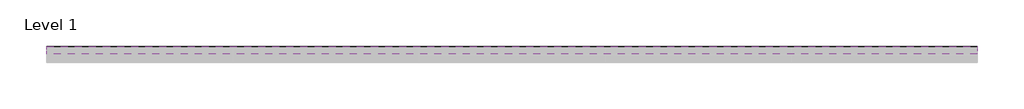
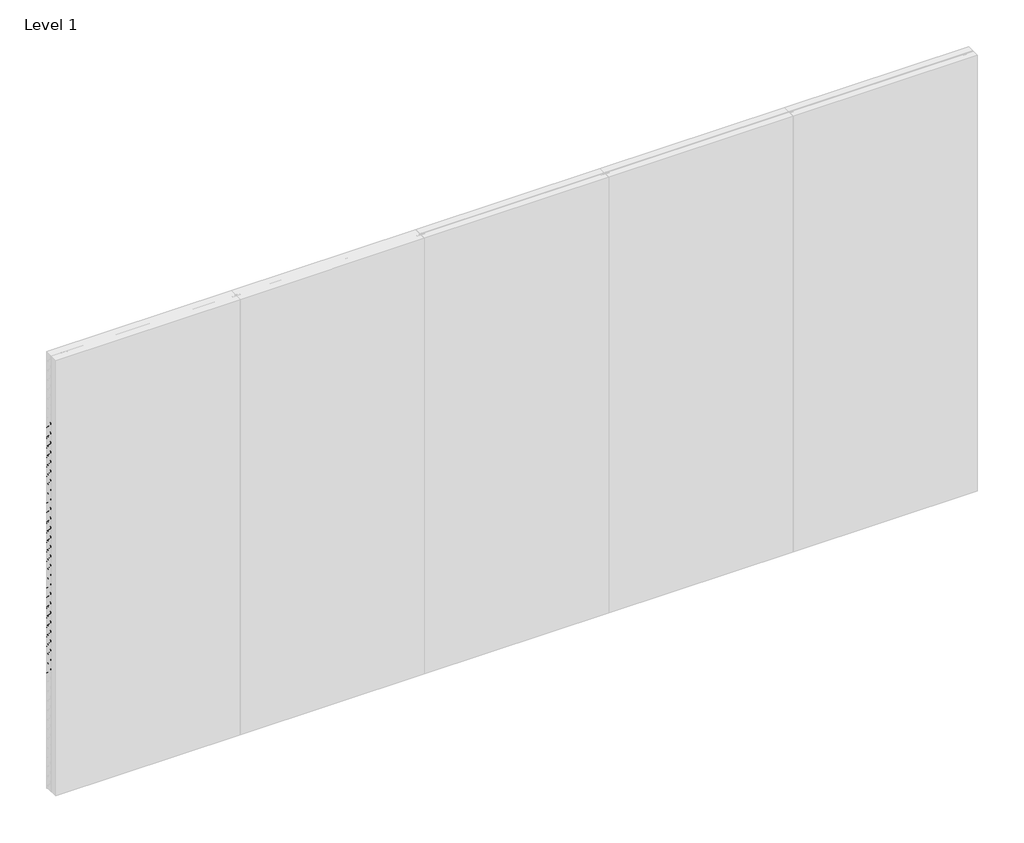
# One storey, part 5 of 7: 27 proxies.
"""IFC4 building model written with IfcOpenShell, lengths in millimetres."""

from ifc_helpers import new_model, si_unit, point, frame, frame_2d, origin, place, context, project, spatial, polyline, circle_curve, trimmed, segment, composite_curve, outline, extrude, element, save

model = new_model("IFC4")

# Units and contexts
model_context = context("Model", 3, world=origin())
ifc_project = project(units=[si_unit("LENGTHUNIT", "METRE", prefix="MILLI")], contexts=[model_context])

# Site, building, storey
site = spatial("IfcSite", under=ifc_project)
building = spatial("IfcBuilding", under=site)
storey = spatial("IfcBuildingStorey", under=building, Name="Level 1", Elevation=0.0)

# Proxies
placement = place(None, origin())
element("IfcBuildingElementProxy", 1, Name="Wall Sweeps", at=placement, inside=storey, context=model_context, shape_type="SweptSolid", body=[
    extrude(outline(composite_curve([segment(polyline([(-1992.5, 2521.0025181), (-1992.5, 2528.9509429), (-1994.5, 2528.9509429), (-1994.5, 2526.5421319), (-1996.0, 2526.5421319), (-1996.0, 2533.6499999), (-1994.5, 2533.6499999), (-1994.5, 2530.4509429), (-1992.5, 2530.4509429), (-1992.5, 2533.7999999), (-1992.1784609, 2535.0), (-1987.7000054, 2535.0), (-1987.7000054, 2531.8499997), (-1989.0835735, 2533.4999997), (-1991.0, 2533.4999997), (-1991.0, 2521.6085574), (-1946.0, 2475.0096933), (-1946.0, 2459.0), (-1947.5, 2461.6798), (-1947.5, 2464.1208496), (-1948.5, 2464.1208496), (-1948.5, 2465.6208496), (-1947.5, 2465.6208496), (-1947.5, 2474.4036539), (-1961.2088107, 2488.599543), (-1963.4375599, 2486.3707939), (-1962.8739549, 2485.8071888)]), True, "CONTINUOUS"), segment(trimmed(circle_curve(frame_2d((-1963.2275083, 2485.4536354)), 0.5), [point((-1962.8739549, 2485.8071888))], [point((-1963.3569178, 2484.9706725))], False, "CARTESIAN"), True, "CONTINUOUS"), segment(polyline([(-1963.3569178, 2484.9706725), (-1966.1977917, 2485.7318824), (-1962.250957, 2489.6787171), (-1992.5, 2521.0025181)]), True, "CONTINUOUS")], self_intersect=False)), frame((0.0, 0.0, 0.0), z_axis=(1.0, 0.0, 0.0), x_axis=(0.0, 1.0, 0.0)), (0.0, 0.0, 1.0), 6000.0),
])
element("IfcBuildingElementProxy", 2, Name="Wall Sweeps", at=placement, inside=storey, context=model_context, shape_type="SweptSolid", body=[
    extrude(outline(composite_curve([segment(polyline([(-1992.5, 2456.0025181), (-1992.5, 2463.9509429), (-1994.5, 2463.9509429), (-1994.5, 2461.5421319), (-1996.0, 2461.5421319), (-1996.0, 2468.6499999), (-1994.5, 2468.6499999), (-1994.5, 2465.4509429), (-1992.5, 2465.4509429), (-1992.5, 2468.7999999), (-1992.1784609, 2470.0), (-1987.7000054, 2470.0), (-1987.7000054, 2466.8499997), (-1989.0835735, 2468.4999997), (-1991.0, 2468.4999997), (-1991.0, 2456.6085574), (-1946.0, 2410.0096933), (-1946.0, 2394.0), (-1947.5, 2396.6798), (-1947.5, 2399.1208496), (-1948.5, 2399.1208496), (-1948.5, 2400.6208496), (-1947.5, 2400.6208496), (-1947.5, 2409.4036539), (-1961.2088107, 2423.599543), (-1963.4375599, 2421.3707939), (-1962.8739549, 2420.8071888)]), True, "CONTINUOUS"), segment(trimmed(circle_curve(frame_2d((-1963.2275083, 2420.4536354)), 0.5), [point((-1962.8739549, 2420.8071888))], [point((-1963.3569178, 2419.9706725))], False, "CARTESIAN"), True, "CONTINUOUS"), segment(polyline([(-1963.3569178, 2419.9706725), (-1966.1977917, 2420.7318824), (-1962.250957, 2424.6787171), (-1992.5, 2456.0025181)]), True, "CONTINUOUS")], self_intersect=False)), frame((0.0, 0.0, 0.0), z_axis=(1.0, 0.0, 0.0), x_axis=(0.0, 1.0, 0.0)), (0.0, 0.0, 1.0), 6000.0),
])
element("IfcBuildingElementProxy", 3, Name="Wall Sweeps", at=placement, inside=storey, context=model_context, shape_type="SweptSolid", body=[
    extrude(outline(composite_curve([segment(polyline([(-1992.5, 2391.0025181), (-1992.5, 2398.9509429), (-1994.5, 2398.9509429), (-1994.5, 2396.5421319), (-1996.0, 2396.5421319), (-1996.0, 2403.6499999), (-1994.5, 2403.6499999), (-1994.5, 2400.4509429), (-1992.5, 2400.4509429), (-1992.5, 2403.7999999), (-1992.1784609, 2405.0), (-1987.7000054, 2405.0), (-1987.7000054, 2401.8499997), (-1989.0835735, 2403.4999997), (-1991.0, 2403.4999997), (-1991.0, 2391.6085574), (-1946.0, 2345.0096933), (-1946.0, 2329.0), (-1947.5, 2331.6798), (-1947.5, 2334.1208496), (-1948.5, 2334.1208496), (-1948.5, 2335.6208496), (-1947.5, 2335.6208496), (-1947.5, 2344.4036539), (-1961.2088107, 2358.599543), (-1963.4375599, 2356.3707939), (-1962.8739549, 2355.8071888)]), True, "CONTINUOUS"), segment(trimmed(circle_curve(frame_2d((-1963.2275083, 2355.4536354)), 0.5), [point((-1962.8739549, 2355.8071888))], [point((-1963.3569178, 2354.9706725))], False, "CARTESIAN"), True, "CONTINUOUS"), segment(polyline([(-1963.3569178, 2354.9706725), (-1966.1977917, 2355.7318824), (-1962.250957, 2359.6787171), (-1992.5, 2391.0025181)]), True, "CONTINUOUS")], self_intersect=False)), frame((0.0, 0.0, 0.0), z_axis=(1.0, 0.0, 0.0), x_axis=(0.0, 1.0, 0.0)), (0.0, 0.0, 1.0), 6000.0),
])
element("IfcBuildingElementProxy", 4, Name="Wall Sweeps", at=placement, inside=storey, context=model_context, shape_type="SweptSolid", body=[
    extrude(outline(composite_curve([segment(polyline([(-1992.5, 2326.0025181), (-1992.5, 2333.9509429), (-1994.5, 2333.9509429), (-1994.5, 2331.5421319), (-1996.0, 2331.5421319), (-1996.0, 2338.6499999), (-1994.5, 2338.6499999), (-1994.5, 2335.4509429), (-1992.5, 2335.4509429), (-1992.5, 2338.7999999), (-1992.1784609, 2340.0), (-1987.7000054, 2340.0), (-1987.7000054, 2336.8499997), (-1989.0835735, 2338.4999997), (-1991.0, 2338.4999997), (-1991.0, 2326.6085574), (-1946.0, 2280.0096933), (-1946.0, 2264.0), (-1947.5, 2266.6798), (-1947.5, 2269.1208496), (-1948.5, 2269.1208496), (-1948.5, 2270.6208496), (-1947.5, 2270.6208496), (-1947.5, 2279.4036539), (-1961.2088107, 2293.599543), (-1963.4375599, 2291.3707939), (-1962.8739549, 2290.8071888)]), True, "CONTINUOUS"), segment(trimmed(circle_curve(frame_2d((-1963.2275083, 2290.4536354)), 0.5), [point((-1962.8739549, 2290.8071888))], [point((-1963.3569178, 2289.9706725))], False, "CARTESIAN"), True, "CONTINUOUS"), segment(polyline([(-1963.3569178, 2289.9706725), (-1966.1977917, 2290.7318824), (-1962.250957, 2294.6787171), (-1992.5, 2326.0025181)]), True, "CONTINUOUS")], self_intersect=False)), frame((0.0, 0.0, 0.0), z_axis=(1.0, 0.0, 0.0), x_axis=(0.0, 1.0, 0.0)), (0.0, 0.0, 1.0), 6000.0),
])
element("IfcBuildingElementProxy", 5, Name="Wall Sweeps", at=placement, inside=storey, context=model_context, shape_type="SweptSolid", body=[
    extrude(outline(composite_curve([segment(polyline([(-1992.5, 2261.0025181), (-1992.5, 2268.9509429), (-1994.5, 2268.9509429), (-1994.5, 2266.5421319), (-1996.0, 2266.5421319), (-1996.0, 2273.6499999), (-1994.5, 2273.6499999), (-1994.5, 2270.4509429), (-1992.5, 2270.4509429), (-1992.5, 2273.7999999), (-1992.1784609, 2275.0), (-1987.7000054, 2275.0), (-1987.7000054, 2271.8499997), (-1989.0835735, 2273.4999997), (-1991.0, 2273.4999997), (-1991.0, 2261.6085574), (-1946.0, 2215.0096933), (-1946.0, 2199.0), (-1947.5, 2201.6798), (-1947.5, 2204.1208496), (-1948.5, 2204.1208496), (-1948.5, 2205.6208496), (-1947.5, 2205.6208496), (-1947.5, 2214.4036539), (-1961.2088107, 2228.599543), (-1963.4375599, 2226.3707939), (-1962.8739549, 2225.8071888)]), True, "CONTINUOUS"), segment(trimmed(circle_curve(frame_2d((-1963.2275083, 2225.4536354)), 0.5), [point((-1962.8739549, 2225.8071888))], [point((-1963.3569178, 2224.9706725))], False, "CARTESIAN"), True, "CONTINUOUS"), segment(polyline([(-1963.3569178, 2224.9706725), (-1966.1977917, 2225.7318824), (-1962.250957, 2229.6787171), (-1992.5, 2261.0025181)]), True, "CONTINUOUS")], self_intersect=False)), frame((0.0, 0.0, 0.0), z_axis=(1.0, 0.0, 0.0), x_axis=(0.0, 1.0, 0.0)), (0.0, 0.0, 1.0), 6000.0),
])
element("IfcBuildingElementProxy", 6, Name="Wall Sweeps", at=placement, inside=storey, context=model_context, shape_type="SweptSolid", body=[
    extrude(outline(composite_curve([segment(polyline([(-1992.5, 2196.0025181), (-1992.5, 2203.9509429), (-1994.5, 2203.9509429), (-1994.5, 2201.5421319), (-1996.0, 2201.5421319), (-1996.0, 2208.6499999), (-1994.5, 2208.6499999), (-1994.5, 2205.4509429), (-1992.5, 2205.4509429), (-1992.5, 2208.7999999), (-1992.1784609, 2210.0), (-1987.7000054, 2210.0), (-1987.7000054, 2206.8499997), (-1989.0835735, 2208.4999997), (-1991.0, 2208.4999997), (-1991.0, 2196.6085574), (-1946.0, 2150.0096933), (-1946.0, 2134.0), (-1947.5, 2136.6798), (-1947.5, 2139.1208496), (-1948.5, 2139.1208496), (-1948.5, 2140.6208496), (-1947.5, 2140.6208496), (-1947.5, 2149.4036539), (-1961.2088107, 2163.599543), (-1963.4375599, 2161.3707939), (-1962.8739549, 2160.8071888)]), True, "CONTINUOUS"), segment(trimmed(circle_curve(frame_2d((-1963.2275083, 2160.4536354)), 0.5), [point((-1962.8739549, 2160.8071888))], [point((-1963.3569178, 2159.9706725))], False, "CARTESIAN"), True, "CONTINUOUS"), segment(polyline([(-1963.3569178, 2159.9706725), (-1966.1977917, 2160.7318824), (-1962.250957, 2164.6787171), (-1992.5, 2196.0025181)]), True, "CONTINUOUS")], self_intersect=False)), frame((0.0, 0.0, 0.0), z_axis=(1.0, 0.0, 0.0), x_axis=(0.0, 1.0, 0.0)), (0.0, 0.0, 1.0), 6000.0),
])
element("IfcBuildingElementProxy", 7, Name="Wall Sweeps", at=placement, inside=storey, context=model_context, shape_type="SweptSolid", body=[
    extrude(outline(composite_curve([segment(polyline([(-1992.5, 2131.0025181), (-1992.5, 2138.9509429), (-1994.5, 2138.9509429), (-1994.5, 2136.5421319), (-1996.0, 2136.5421319), (-1996.0, 2143.6499999), (-1994.5, 2143.6499999), (-1994.5, 2140.4509429), (-1992.5, 2140.4509429), (-1992.5, 2143.7999999), (-1992.1784609, 2145.0), (-1987.7000054, 2145.0), (-1987.7000054, 2141.8499997), (-1989.0835735, 2143.4999997), (-1991.0, 2143.4999997), (-1991.0, 2131.6085574), (-1946.0, 2085.0096933), (-1946.0, 2069.0), (-1947.5, 2071.6798), (-1947.5, 2074.1208496), (-1948.5, 2074.1208496), (-1948.5, 2075.6208496), (-1947.5, 2075.6208496), (-1947.5, 2084.4036539), (-1961.2088107, 2098.599543), (-1963.4375599, 2096.3707939), (-1962.8739549, 2095.8071888)]), True, "CONTINUOUS"), segment(trimmed(circle_curve(frame_2d((-1963.2275083, 2095.4536354)), 0.5), [point((-1962.8739549, 2095.8071888))], [point((-1963.3569178, 2094.9706725))], False, "CARTESIAN"), True, "CONTINUOUS"), segment(polyline([(-1963.3569178, 2094.9706725), (-1966.1977917, 2095.7318824), (-1962.250957, 2099.6787171), (-1992.5, 2131.0025181)]), True, "CONTINUOUS")], self_intersect=False)), frame((0.0, 0.0, 0.0), z_axis=(1.0, 0.0, 0.0), x_axis=(0.0, 1.0, 0.0)), (0.0, 0.0, 1.0), 6000.0),
])
element("IfcBuildingElementProxy", 8, Name="Wall Sweeps", at=placement, inside=storey, context=model_context, shape_type="SweptSolid", body=[
    extrude(outline(composite_curve([segment(polyline([(-1992.5, 2066.0025181), (-1992.5, 2073.9509429), (-1994.5, 2073.9509429), (-1994.5, 2071.5421319), (-1996.0, 2071.5421319), (-1996.0, 2078.6499999), (-1994.5, 2078.6499999), (-1994.5, 2075.4509429), (-1992.5, 2075.4509429), (-1992.5, 2078.7999999), (-1992.1784609, 2080.0), (-1987.7000054, 2080.0), (-1987.7000054, 2076.8499997), (-1989.0835735, 2078.4999997), (-1991.0, 2078.4999997), (-1991.0, 2066.6085574), (-1946.0, 2020.0096933), (-1946.0, 2004.0), (-1947.5, 2006.6798), (-1947.5, 2009.1208496), (-1948.5, 2009.1208496), (-1948.5, 2010.6208496), (-1947.5, 2010.6208496), (-1947.5, 2019.4036539), (-1961.2088107, 2033.599543), (-1963.4375599, 2031.3707939), (-1962.8739549, 2030.8071888)]), True, "CONTINUOUS"), segment(trimmed(circle_curve(frame_2d((-1963.2275083, 2030.4536354)), 0.5), [point((-1962.8739549, 2030.8071888))], [point((-1963.3569178, 2029.9706725))], False, "CARTESIAN"), True, "CONTINUOUS"), segment(polyline([(-1963.3569178, 2029.9706725), (-1966.1977917, 2030.7318824), (-1962.250957, 2034.6787171), (-1992.5, 2066.0025181)]), True, "CONTINUOUS")], self_intersect=False)), frame((0.0, 0.0, 0.0), z_axis=(1.0, 0.0, 0.0), x_axis=(0.0, 1.0, 0.0)), (0.0, 0.0, 1.0), 6000.0),
])
element("IfcBuildingElementProxy", 9, Name="Wall Sweeps", at=placement, inside=storey, context=model_context, shape_type="SweptSolid", body=[
    extrude(outline(composite_curve([segment(polyline([(-1992.5, 2001.0025181), (-1992.5, 2008.9509429), (-1994.5, 2008.9509429), (-1994.5, 2006.5421319), (-1996.0, 2006.5421319), (-1996.0, 2013.6499999), (-1994.5, 2013.6499999), (-1994.5, 2010.4509429), (-1992.5, 2010.4509429), (-1992.5, 2013.7999999), (-1992.1784609, 2015.0), (-1987.7000054, 2015.0), (-1987.7000054, 2011.8499997), (-1989.0835735, 2013.4999997), (-1991.0, 2013.4999997), (-1991.0, 2001.6085574), (-1946.0, 1955.0096933), (-1946.0, 1939.0), (-1947.5, 1941.6798), (-1947.5, 1944.1208496), (-1948.5, 1944.1208496), (-1948.5, 1945.6208496), (-1947.5, 1945.6208496), (-1947.5, 1954.4036539), (-1961.2088107, 1968.599543), (-1963.4375599, 1966.3707939), (-1962.8739549, 1965.8071888)]), True, "CONTINUOUS"), segment(trimmed(circle_curve(frame_2d((-1963.2275083, 1965.4536354)), 0.5), [point((-1962.8739549, 1965.8071888))], [point((-1963.3569178, 1964.9706725))], False, "CARTESIAN"), True, "CONTINUOUS"), segment(polyline([(-1963.3569178, 1964.9706725), (-1966.1977917, 1965.7318824), (-1962.250957, 1969.6787171), (-1992.5, 2001.0025181)]), True, "CONTINUOUS")], self_intersect=False)), frame((0.0, 0.0, 0.0), z_axis=(1.0, 0.0, 0.0), x_axis=(0.0, 1.0, 0.0)), (0.0, 0.0, 1.0), 6000.0),
])
element("IfcBuildingElementProxy", 10, Name="Wall Sweeps", at=placement, inside=storey, context=model_context, shape_type="SweptSolid", body=[
    extrude(outline(composite_curve([segment(polyline([(-1992.5, 1936.0025181), (-1992.5, 1943.9509429), (-1994.5, 1943.9509429), (-1994.5, 1941.5421319), (-1996.0, 1941.5421319), (-1996.0, 1948.6499999), (-1994.5, 1948.6499999), (-1994.5, 1945.4509429), (-1992.5, 1945.4509429), (-1992.5, 1948.7999999), (-1992.1784609, 1950.0), (-1987.7000054, 1950.0), (-1987.7000054, 1946.8499997), (-1989.0835735, 1948.4999997), (-1991.0, 1948.4999997), (-1991.0, 1936.6085574), (-1946.0, 1890.0096933), (-1946.0, 1874.0), (-1947.5, 1876.6798), (-1947.5, 1879.1208496), (-1948.5, 1879.1208496), (-1948.5, 1880.6208496), (-1947.5, 1880.6208496), (-1947.5, 1889.4036539), (-1961.2088107, 1903.599543), (-1963.4375599, 1901.3707939), (-1962.8739549, 1900.8071888)]), True, "CONTINUOUS"), segment(trimmed(circle_curve(frame_2d((-1963.2275083, 1900.4536354)), 0.5), [point((-1962.8739549, 1900.8071888))], [point((-1963.3569178, 1899.9706725))], False, "CARTESIAN"), True, "CONTINUOUS"), segment(polyline([(-1963.3569178, 1899.9706725), (-1966.1977917, 1900.7318824), (-1962.250957, 1904.6787171), (-1992.5, 1936.0025181)]), True, "CONTINUOUS")], self_intersect=False)), frame((0.0, 0.0, 0.0), z_axis=(1.0, 0.0, 0.0), x_axis=(0.0, 1.0, 0.0)), (0.0, 0.0, 1.0), 6000.0),
])
element("IfcBuildingElementProxy", 11, Name="Wall Sweeps", at=placement, inside=storey, context=model_context, shape_type="SweptSolid", body=[
    extrude(outline(composite_curve([segment(polyline([(-1992.5, 1871.0025181), (-1992.5, 1878.9509429), (-1994.5, 1878.9509429), (-1994.5, 1876.5421319), (-1996.0, 1876.5421319), (-1996.0, 1883.6499999), (-1994.5, 1883.6499999), (-1994.5, 1880.4509429), (-1992.5, 1880.4509429), (-1992.5, 1883.7999999), (-1992.1784609, 1885.0), (-1987.7000054, 1885.0), (-1987.7000054, 1881.8499997), (-1989.0835735, 1883.4999997), (-1991.0, 1883.4999997), (-1991.0, 1871.6085574), (-1946.0, 1825.0096933), (-1946.0, 1809.0), (-1947.5, 1811.6798), (-1947.5, 1814.1208496), (-1948.5, 1814.1208496), (-1948.5, 1815.6208496), (-1947.5, 1815.6208496), (-1947.5, 1824.4036539), (-1961.2088107, 1838.599543), (-1963.4375599, 1836.3707939), (-1962.8739549, 1835.8071888)]), True, "CONTINUOUS"), segment(trimmed(circle_curve(frame_2d((-1963.2275083, 1835.4536354)), 0.5), [point((-1962.8739549, 1835.8071888))], [point((-1963.3569178, 1834.9706725))], False, "CARTESIAN"), True, "CONTINUOUS"), segment(polyline([(-1963.3569178, 1834.9706725), (-1966.1977917, 1835.7318824), (-1962.250957, 1839.6787171), (-1992.5, 1871.0025181)]), True, "CONTINUOUS")], self_intersect=False)), frame((0.0, 0.0, 0.0), z_axis=(1.0, 0.0, 0.0), x_axis=(0.0, 1.0, 0.0)), (0.0, 0.0, 1.0), 6000.0),
])
element("IfcBuildingElementProxy", 12, Name="Wall Sweeps", at=placement, inside=storey, context=model_context, shape_type="SweptSolid", body=[
    extrude(outline(composite_curve([segment(polyline([(-1992.5, 1806.0025181), (-1992.5, 1813.9509429), (-1994.5, 1813.9509429), (-1994.5, 1811.5421319), (-1996.0, 1811.5421319), (-1996.0, 1818.6499999), (-1994.5, 1818.6499999), (-1994.5, 1815.4509429), (-1992.5, 1815.4509429), (-1992.5, 1818.7999999), (-1992.1784609, 1820.0), (-1987.7000054, 1820.0), (-1987.7000054, 1816.8499997), (-1989.0835735, 1818.4999997), (-1991.0, 1818.4999997), (-1991.0, 1806.6085574), (-1946.0, 1760.0096933), (-1946.0, 1744.0), (-1947.5, 1746.6798), (-1947.5, 1749.1208496), (-1948.5, 1749.1208496), (-1948.5, 1750.6208496), (-1947.5, 1750.6208496), (-1947.5, 1759.4036539), (-1961.2088107, 1773.599543), (-1963.4375599, 1771.3707939), (-1962.8739549, 1770.8071888)]), True, "CONTINUOUS"), segment(trimmed(circle_curve(frame_2d((-1963.2275083, 1770.4536354)), 0.5), [point((-1962.8739549, 1770.8071888))], [point((-1963.3569178, 1769.9706725))], False, "CARTESIAN"), True, "CONTINUOUS"), segment(polyline([(-1963.3569178, 1769.9706725), (-1966.1977917, 1770.7318824), (-1962.250957, 1774.6787171), (-1992.5, 1806.0025181)]), True, "CONTINUOUS")], self_intersect=False)), frame((0.0, 0.0, 0.0), z_axis=(1.0, 0.0, 0.0), x_axis=(0.0, 1.0, 0.0)), (0.0, 0.0, 1.0), 6000.0),
])
element("IfcBuildingElementProxy", 13, Name="Wall Sweeps", at=placement, inside=storey, context=model_context, shape_type="SweptSolid", body=[
    extrude(outline(composite_curve([segment(polyline([(-1992.5, 1741.0025181), (-1992.5, 1748.9509429), (-1994.5, 1748.9509429), (-1994.5, 1746.5421319), (-1996.0, 1746.5421319), (-1996.0, 1753.6499999), (-1994.5, 1753.6499999), (-1994.5, 1750.4509429), (-1992.5, 1750.4509429), (-1992.5, 1753.7999999), (-1992.1784609, 1755.0), (-1987.7000054, 1755.0), (-1987.7000054, 1751.8499997), (-1989.0835735, 1753.4999997), (-1991.0, 1753.4999997), (-1991.0, 1741.6085574), (-1946.0, 1695.0096933), (-1946.0, 1679.0), (-1947.5, 1681.6798), (-1947.5, 1684.1208496), (-1948.5, 1684.1208496), (-1948.5, 1685.6208496), (-1947.5, 1685.6208496), (-1947.5, 1694.4036539), (-1961.2088107, 1708.599543), (-1963.4375599, 1706.3707939), (-1962.8739549, 1705.8071888)]), True, "CONTINUOUS"), segment(trimmed(circle_curve(frame_2d((-1963.2275083, 1705.4536354)), 0.5), [point((-1962.8739549, 1705.8071888))], [point((-1963.3569178, 1704.9706725))], False, "CARTESIAN"), True, "CONTINUOUS"), segment(polyline([(-1963.3569178, 1704.9706725), (-1966.1977917, 1705.7318824), (-1962.250957, 1709.6787171), (-1992.5, 1741.0025181)]), True, "CONTINUOUS")], self_intersect=False)), frame((0.0, 0.0, 0.0), z_axis=(1.0, 0.0, 0.0), x_axis=(0.0, 1.0, 0.0)), (0.0, 0.0, 1.0), 6000.0),
])
element("IfcBuildingElementProxy", 14, Name="Wall Sweeps", at=placement, inside=storey, context=model_context, shape_type="SweptSolid", body=[
    extrude(outline(composite_curve([segment(polyline([(-1992.5, 1676.0025181), (-1992.5, 1683.9509429), (-1994.5, 1683.9509429), (-1994.5, 1681.5421319), (-1996.0, 1681.5421319), (-1996.0, 1688.6499999), (-1994.5, 1688.6499999), (-1994.5, 1685.4509429), (-1992.5, 1685.4509429), (-1992.5, 1688.7999999), (-1992.1784609, 1690.0), (-1987.7000054, 1690.0), (-1987.7000054, 1686.8499997), (-1989.0835735, 1688.4999997), (-1991.0, 1688.4999997), (-1991.0, 1676.6085574), (-1946.0, 1630.0096933), (-1946.0, 1614.0), (-1947.5, 1616.6798), (-1947.5, 1619.1208496), (-1948.5, 1619.1208496), (-1948.5, 1620.6208496), (-1947.5, 1620.6208496), (-1947.5, 1629.4036539), (-1961.2088107, 1643.599543), (-1963.4375599, 1641.3707939), (-1962.8739549, 1640.8071888)]), True, "CONTINUOUS"), segment(trimmed(circle_curve(frame_2d((-1963.2275083, 1640.4536354)), 0.5), [point((-1962.8739549, 1640.8071888))], [point((-1963.3569178, 1639.9706725))], False, "CARTESIAN"), True, "CONTINUOUS"), segment(polyline([(-1963.3569178, 1639.9706725), (-1966.1977917, 1640.7318824), (-1962.250957, 1644.6787171), (-1992.5, 1676.0025181)]), True, "CONTINUOUS")], self_intersect=False)), frame((0.0, 0.0, 0.0), z_axis=(1.0, 0.0, 0.0), x_axis=(0.0, 1.0, 0.0)), (0.0, 0.0, 1.0), 6000.0),
])
element("IfcBuildingElementProxy", 15, Name="Wall Sweeps", at=placement, inside=storey, context=model_context, shape_type="SweptSolid", body=[
    extrude(outline(composite_curve([segment(polyline([(-1992.5, 1611.0025181), (-1992.5, 1618.9509429), (-1994.5, 1618.9509429), (-1994.5, 1616.5421319), (-1996.0, 1616.5421319), (-1996.0, 1623.6499999), (-1994.5, 1623.6499999), (-1994.5, 1620.4509429), (-1992.5, 1620.4509429), (-1992.5, 1623.7999999), (-1992.1784609, 1625.0), (-1987.7000054, 1625.0), (-1987.7000054, 1621.8499997), (-1989.0835735, 1623.4999997), (-1991.0, 1623.4999997), (-1991.0, 1611.6085574), (-1946.0, 1565.0096933), (-1946.0, 1549.0), (-1947.5, 1551.6798), (-1947.5, 1554.1208496), (-1948.5, 1554.1208496), (-1948.5, 1555.6208496), (-1947.5, 1555.6208496), (-1947.5, 1564.4036539), (-1961.2088107, 1578.599543), (-1963.4375599, 1576.3707939), (-1962.8739549, 1575.8071888)]), True, "CONTINUOUS"), segment(trimmed(circle_curve(frame_2d((-1963.2275083, 1575.4536354)), 0.5), [point((-1962.8739549, 1575.8071888))], [point((-1963.3569178, 1574.9706725))], False, "CARTESIAN"), True, "CONTINUOUS"), segment(polyline([(-1963.3569178, 1574.9706725), (-1966.1977917, 1575.7318824), (-1962.250957, 1579.6787171), (-1992.5, 1611.0025181)]), True, "CONTINUOUS")], self_intersect=False)), frame((0.0, 0.0, 0.0), z_axis=(1.0, 0.0, 0.0), x_axis=(0.0, 1.0, 0.0)), (0.0, 0.0, 1.0), 6000.0),
])
element("IfcBuildingElementProxy", 16, Name="Wall Sweeps", at=placement, inside=storey, context=model_context, shape_type="SweptSolid", body=[
    extrude(outline(composite_curve([segment(polyline([(-1992.5, 1546.0025181), (-1992.5, 1553.9509429), (-1994.5, 1553.9509429), (-1994.5, 1551.5421319), (-1996.0, 1551.5421319), (-1996.0, 1558.6499999), (-1994.5, 1558.6499999), (-1994.5, 1555.4509429), (-1992.5, 1555.4509429), (-1992.5, 1558.7999999), (-1992.1784609, 1560.0), (-1987.7000054, 1560.0), (-1987.7000054, 1556.8499997), (-1989.0835735, 1558.4999997), (-1991.0, 1558.4999997), (-1991.0, 1546.6085574), (-1946.0, 1500.0096933), (-1946.0, 1484.0), (-1947.5, 1486.6798), (-1947.5, 1489.1208496), (-1948.5, 1489.1208496), (-1948.5, 1490.6208496), (-1947.5, 1490.6208496), (-1947.5, 1499.4036539), (-1961.2088107, 1513.599543), (-1963.4375599, 1511.3707939), (-1962.8739549, 1510.8071888)]), True, "CONTINUOUS"), segment(trimmed(circle_curve(frame_2d((-1963.2275083, 1510.4536354)), 0.5), [point((-1962.8739549, 1510.8071888))], [point((-1963.3569178, 1509.9706725))], False, "CARTESIAN"), True, "CONTINUOUS"), segment(polyline([(-1963.3569178, 1509.9706725), (-1966.1977917, 1510.7318824), (-1962.250957, 1514.6787171), (-1992.5, 1546.0025181)]), True, "CONTINUOUS")], self_intersect=False)), frame((0.0, 0.0, 0.0), z_axis=(1.0, 0.0, 0.0), x_axis=(0.0, 1.0, 0.0)), (0.0, 0.0, 1.0), 6000.0),
])
element("IfcBuildingElementProxy", 17, Name="Wall Sweeps", at=placement, inside=storey, context=model_context, shape_type="SweptSolid", body=[
    extrude(outline(composite_curve([segment(polyline([(-1992.5, 1481.0025181), (-1992.5, 1488.9509429), (-1994.5, 1488.9509429), (-1994.5, 1486.5421319), (-1996.0, 1486.5421319), (-1996.0, 1493.6499999), (-1994.5, 1493.6499999), (-1994.5, 1490.4509429), (-1992.5, 1490.4509429), (-1992.5, 1493.7999999), (-1992.1784609, 1495.0), (-1987.7000054, 1495.0), (-1987.7000054, 1491.8499997), (-1989.0835735, 1493.4999997), (-1991.0, 1493.4999997), (-1991.0, 1481.6085574), (-1946.0, 1435.0096933), (-1946.0, 1419.0), (-1947.5, 1421.6798), (-1947.5, 1424.1208496), (-1948.5, 1424.1208496), (-1948.5, 1425.6208496), (-1947.5, 1425.6208496), (-1947.5, 1434.4036539), (-1961.2088107, 1448.599543), (-1963.4375599, 1446.3707939), (-1962.8739549, 1445.8071888)]), True, "CONTINUOUS"), segment(trimmed(circle_curve(frame_2d((-1963.2275083, 1445.4536354)), 0.5), [point((-1962.8739549, 1445.8071888))], [point((-1963.3569178, 1444.9706725))], False, "CARTESIAN"), True, "CONTINUOUS"), segment(polyline([(-1963.3569178, 1444.9706725), (-1966.1977917, 1445.7318824), (-1962.250957, 1449.6787171), (-1992.5, 1481.0025181)]), True, "CONTINUOUS")], self_intersect=False)), frame((0.0, 0.0, 0.0), z_axis=(1.0, 0.0, 0.0), x_axis=(0.0, 1.0, 0.0)), (0.0, 0.0, 1.0), 6000.0),
])
element("IfcBuildingElementProxy", 18, Name="Wall Sweeps", at=placement, inside=storey, context=model_context, shape_type="SweptSolid", body=[
    extrude(outline(composite_curve([segment(polyline([(-1992.5, 1416.0025181), (-1992.5, 1423.9509429), (-1994.5, 1423.9509429), (-1994.5, 1421.5421319), (-1996.0, 1421.5421319), (-1996.0, 1428.6499999), (-1994.5, 1428.6499999), (-1994.5, 1425.4509429), (-1992.5, 1425.4509429), (-1992.5, 1428.7999999), (-1992.1784609, 1430.0), (-1987.7000054, 1430.0), (-1987.7000054, 1426.8499997), (-1989.0835735, 1428.4999997), (-1991.0, 1428.4999997), (-1991.0, 1416.6085574), (-1946.0, 1370.0096933), (-1946.0, 1354.0), (-1947.5, 1356.6798), (-1947.5, 1359.1208496), (-1948.5, 1359.1208496), (-1948.5, 1360.6208496), (-1947.5, 1360.6208496), (-1947.5, 1369.4036539), (-1961.2088107, 1383.599543), (-1963.4375599, 1381.3707939), (-1962.8739549, 1380.8071888)]), True, "CONTINUOUS"), segment(trimmed(circle_curve(frame_2d((-1963.2275083, 1380.4536354)), 0.5), [point((-1962.8739549, 1380.8071888))], [point((-1963.3569178, 1379.9706725))], False, "CARTESIAN"), True, "CONTINUOUS"), segment(polyline([(-1963.3569178, 1379.9706725), (-1966.1977917, 1380.7318824), (-1962.250957, 1384.6787171), (-1992.5, 1416.0025181)]), True, "CONTINUOUS")], self_intersect=False)), frame((0.0, 0.0, 0.0), z_axis=(1.0, 0.0, 0.0), x_axis=(0.0, 1.0, 0.0)), (0.0, 0.0, 1.0), 6000.0),
])
element("IfcBuildingElementProxy", 19, Name="Wall Sweeps", at=placement, inside=storey, context=model_context, shape_type="SweptSolid", body=[
    extrude(outline(composite_curve([segment(polyline([(-1992.5, 1351.0025181), (-1992.5, 1358.9509429), (-1994.5, 1358.9509429), (-1994.5, 1356.5421319), (-1996.0, 1356.5421319), (-1996.0, 1363.6499999), (-1994.5, 1363.6499999), (-1994.5, 1360.4509429), (-1992.5, 1360.4509429), (-1992.5, 1363.7999999), (-1992.1784609, 1365.0), (-1987.7000054, 1365.0), (-1987.7000054, 1361.8499997), (-1989.0835735, 1363.4999997), (-1991.0, 1363.4999997), (-1991.0, 1351.6085574), (-1946.0, 1305.0096933), (-1946.0, 1289.0), (-1947.5, 1291.6798), (-1947.5, 1294.1208496), (-1948.5, 1294.1208496), (-1948.5, 1295.6208496), (-1947.5, 1295.6208496), (-1947.5, 1304.4036539), (-1961.2088107, 1318.599543), (-1963.4375599, 1316.3707939), (-1962.8739549, 1315.8071888)]), True, "CONTINUOUS"), segment(trimmed(circle_curve(frame_2d((-1963.2275083, 1315.4536354)), 0.5), [point((-1962.8739549, 1315.8071888))], [point((-1963.3569178, 1314.9706725))], False, "CARTESIAN"), True, "CONTINUOUS"), segment(polyline([(-1963.3569178, 1314.9706725), (-1966.1977917, 1315.7318824), (-1962.250957, 1319.6787171), (-1992.5, 1351.0025181)]), True, "CONTINUOUS")], self_intersect=False)), frame((0.0, 0.0, 0.0), z_axis=(1.0, 0.0, 0.0), x_axis=(0.0, 1.0, 0.0)), (0.0, 0.0, 1.0), 6000.0),
])
element("IfcBuildingElementProxy", 20, Name="Wall Sweeps", at=placement, inside=storey, context=model_context, shape_type="SweptSolid", body=[
    extrude(outline(composite_curve([segment(polyline([(-1992.5, 1286.0025181), (-1992.5, 1293.9509429), (-1994.5, 1293.9509429), (-1994.5, 1291.5421319), (-1996.0, 1291.5421319), (-1996.0, 1298.6499999), (-1994.5, 1298.6499999), (-1994.5, 1295.4509429), (-1992.5, 1295.4509429), (-1992.5, 1298.7999999), (-1992.1784609, 1300.0), (-1987.7000054, 1300.0), (-1987.7000054, 1296.8499997), (-1989.0835735, 1298.4999997), (-1991.0, 1298.4999997), (-1991.0, 1286.6085574), (-1946.0, 1240.0096933), (-1946.0, 1224.0), (-1947.5, 1226.6798), (-1947.5, 1229.1208496), (-1948.5, 1229.1208496), (-1948.5, 1230.6208496), (-1947.5, 1230.6208496), (-1947.5, 1239.4036539), (-1961.2088107, 1253.599543), (-1963.4375599, 1251.3707939), (-1962.8739549, 1250.8071888)]), True, "CONTINUOUS"), segment(trimmed(circle_curve(frame_2d((-1963.2275083, 1250.4536354)), 0.5), [point((-1962.8739549, 1250.8071888))], [point((-1963.3569178, 1249.9706725))], False, "CARTESIAN"), True, "CONTINUOUS"), segment(polyline([(-1963.3569178, 1249.9706725), (-1966.1977917, 1250.7318824), (-1962.250957, 1254.6787171), (-1992.5, 1286.0025181)]), True, "CONTINUOUS")], self_intersect=False)), frame((0.0, 0.0, 0.0), z_axis=(1.0, 0.0, 0.0), x_axis=(0.0, 1.0, 0.0)), (0.0, 0.0, 1.0), 6000.0),
])
element("IfcBuildingElementProxy", 21, Name="Wall Sweeps", at=placement, inside=storey, context=model_context, shape_type="SweptSolid", body=[
    extrude(outline(composite_curve([segment(polyline([(-1992.5, 1221.0025181), (-1992.5, 1228.9509429), (-1994.5, 1228.9509429), (-1994.5, 1226.5421319), (-1996.0, 1226.5421319), (-1996.0, 1233.6499999), (-1994.5, 1233.6499999), (-1994.5, 1230.4509429), (-1992.5, 1230.4509429), (-1992.5, 1233.7999999), (-1992.1784609, 1235.0), (-1987.7000054, 1235.0), (-1987.7000054, 1231.8499997), (-1989.0835735, 1233.4999997), (-1991.0, 1233.4999997), (-1991.0, 1221.6085574), (-1946.0, 1175.0096933), (-1946.0, 1159.0), (-1947.5, 1161.6798), (-1947.5, 1164.1208496), (-1948.5, 1164.1208496), (-1948.5, 1165.6208496), (-1947.5, 1165.6208496), (-1947.5, 1174.4036539), (-1961.2088107, 1188.599543), (-1963.4375599, 1186.3707939), (-1962.8739549, 1185.8071888)]), True, "CONTINUOUS"), segment(trimmed(circle_curve(frame_2d((-1963.2275083, 1185.4536354)), 0.5), [point((-1962.8739549, 1185.8071888))], [point((-1963.3569178, 1184.9706725))], False, "CARTESIAN"), True, "CONTINUOUS"), segment(polyline([(-1963.3569178, 1184.9706725), (-1966.1977917, 1185.7318824), (-1962.250957, 1189.6787171), (-1992.5, 1221.0025181)]), True, "CONTINUOUS")], self_intersect=False)), frame((0.0, 0.0, 0.0), z_axis=(1.0, 0.0, 0.0), x_axis=(0.0, 1.0, 0.0)), (0.0, 0.0, 1.0), 6000.0),
])
element("IfcBuildingElementProxy", 22, Name="Wall Sweeps", at=placement, inside=storey, context=model_context, shape_type="SweptSolid", body=[
    extrude(outline(composite_curve([segment(polyline([(-1992.5, 1156.0025181), (-1992.5, 1163.9509429), (-1994.5, 1163.9509429), (-1994.5, 1161.5421319), (-1996.0, 1161.5421319), (-1996.0, 1168.6499999), (-1994.5, 1168.6499999), (-1994.5, 1165.4509429), (-1992.5, 1165.4509429), (-1992.5, 1168.7999999), (-1992.1784609, 1170.0), (-1987.7000054, 1170.0), (-1987.7000054, 1166.8499997), (-1989.0835735, 1168.4999997), (-1991.0, 1168.4999997), (-1991.0, 1156.6085574), (-1946.0, 1110.0096933), (-1946.0, 1094.0), (-1947.5, 1096.6798), (-1947.5, 1099.1208496), (-1948.5, 1099.1208496), (-1948.5, 1100.6208496), (-1947.5, 1100.6208496), (-1947.5, 1109.4036539), (-1961.2088107, 1123.599543), (-1963.4375599, 1121.3707939), (-1962.8739549, 1120.8071888)]), True, "CONTINUOUS"), segment(trimmed(circle_curve(frame_2d((-1963.2275083, 1120.4536354)), 0.5), [point((-1962.8739549, 1120.8071888))], [point((-1963.3569178, 1119.9706725))], False, "CARTESIAN"), True, "CONTINUOUS"), segment(polyline([(-1963.3569178, 1119.9706725), (-1966.1977917, 1120.7318824), (-1962.250957, 1124.6787171), (-1992.5, 1156.0025181)]), True, "CONTINUOUS")], self_intersect=False)), frame((0.0, 0.0, 0.0), z_axis=(1.0, 0.0, 0.0), x_axis=(0.0, 1.0, 0.0)), (0.0, 0.0, 1.0), 6000.0),
])
element("IfcBuildingElementProxy", 23, Name="Wall Sweeps", at=placement, inside=storey, context=model_context, shape_type="SweptSolid", body=[
    extrude(outline(composite_curve([segment(polyline([(-1992.5, 1091.0025181), (-1992.5, 1098.9509429), (-1994.5, 1098.9509429), (-1994.5, 1096.5421319), (-1996.0, 1096.5421319), (-1996.0, 1103.6499999), (-1994.5, 1103.6499999), (-1994.5, 1100.4509429), (-1992.5, 1100.4509429), (-1992.5, 1103.7999999), (-1992.1784609, 1105.0), (-1987.7000054, 1105.0), (-1987.7000054, 1101.8499997), (-1989.0835735, 1103.4999997), (-1991.0, 1103.4999997), (-1991.0, 1091.6085574), (-1946.0, 1045.0096933), (-1946.0, 1029.0), (-1947.5, 1031.6798), (-1947.5, 1034.1208496), (-1948.5, 1034.1208496), (-1948.5, 1035.6208496), (-1947.5, 1035.6208496), (-1947.5, 1044.4036539), (-1961.2088107, 1058.599543), (-1963.4375599, 1056.3707939), (-1962.8739549, 1055.8071888)]), True, "CONTINUOUS"), segment(trimmed(circle_curve(frame_2d((-1963.2275083, 1055.4536354)), 0.5), [point((-1962.8739549, 1055.8071888))], [point((-1963.3569178, 1054.9706725))], False, "CARTESIAN"), True, "CONTINUOUS"), segment(polyline([(-1963.3569178, 1054.9706725), (-1966.1977917, 1055.7318824), (-1962.250957, 1059.6787171), (-1992.5, 1091.0025181)]), True, "CONTINUOUS")], self_intersect=False)), frame((0.0, 0.0, 0.0), z_axis=(1.0, 0.0, 0.0), x_axis=(0.0, 1.0, 0.0)), (0.0, 0.0, 1.0), 6000.0),
])
element("IfcBuildingElementProxy", 24, Name="Wall Sweeps", at=placement, inside=storey, context=model_context, shape_type="SweptSolid", body=[
    extrude(outline(composite_curve([segment(polyline([(-1992.5, 1026.0025181), (-1992.5, 1033.9509429), (-1994.5, 1033.9509429), (-1994.5, 1031.5421319), (-1996.0, 1031.5421319), (-1996.0, 1038.6499999), (-1994.5, 1038.6499999), (-1994.5, 1035.4509429), (-1992.5, 1035.4509429), (-1992.5, 1038.7999999), (-1992.1784609, 1040.0), (-1987.7000054, 1040.0), (-1987.7000054, 1036.8499997), (-1989.0835735, 1038.4999997), (-1991.0, 1038.4999997), (-1991.0, 1026.6085574), (-1946.0, 980.0096933), (-1946.0, 964.0), (-1947.5, 966.6798), (-1947.5, 969.1208496), (-1948.5, 969.1208496), (-1948.5, 970.6208496), (-1947.5, 970.6208496), (-1947.5, 979.4036539), (-1961.2088107, 993.599543), (-1963.4375599, 991.3707939), (-1962.8739549, 990.8071888)]), True, "CONTINUOUS"), segment(trimmed(circle_curve(frame_2d((-1963.2275083, 990.4536354)), 0.5), [point((-1962.8739549, 990.8071888))], [point((-1963.3569178, 989.9706725))], False, "CARTESIAN"), True, "CONTINUOUS"), segment(polyline([(-1963.3569178, 989.9706725), (-1966.1977917, 990.7318824), (-1962.250957, 994.6787171), (-1992.5, 1026.0025181)]), True, "CONTINUOUS")], self_intersect=False)), frame((0.0, 0.0, 0.0), z_axis=(1.0, 0.0, 0.0), x_axis=(0.0, 1.0, 0.0)), (0.0, 0.0, 1.0), 6000.0),
])
element("IfcBuildingElementProxy", 25, Name="Wall Sweeps", at=placement, inside=storey, context=model_context, shape_type="SweptSolid", body=[
    extrude(outline(composite_curve([segment(polyline([(-1992.5, 961.0025181), (-1992.5, 968.9509429), (-1994.5, 968.9509429), (-1994.5, 966.5421319), (-1996.0, 966.5421319), (-1996.0, 973.6499999), (-1994.5, 973.6499999), (-1994.5, 970.4509429), (-1992.5, 970.4509429), (-1992.5, 973.7999999), (-1992.1784609, 975.0), (-1987.7000054, 975.0), (-1987.7000054, 971.8499997), (-1989.0835735, 973.4999997), (-1991.0, 973.4999997), (-1991.0, 961.6085574), (-1946.0, 915.0096933), (-1946.0, 899.0), (-1947.5, 901.6798), (-1947.5, 904.1208496), (-1948.5, 904.1208496), (-1948.5, 905.6208496), (-1947.5, 905.6208496), (-1947.5, 914.4036539), (-1961.2088107, 928.599543), (-1963.4375599, 926.3707939), (-1962.8739549, 925.8071888)]), True, "CONTINUOUS"), segment(trimmed(circle_curve(frame_2d((-1963.2275083, 925.4536354)), 0.5), [point((-1962.8739549, 925.8071888))], [point((-1963.3569178, 924.9706725))], False, "CARTESIAN"), True, "CONTINUOUS"), segment(polyline([(-1963.3569178, 924.9706725), (-1966.1977917, 925.7318824), (-1962.250957, 929.6787171), (-1992.5, 961.0025181)]), True, "CONTINUOUS")], self_intersect=False)), frame((0.0, 0.0, 0.0), z_axis=(1.0, 0.0, 0.0), x_axis=(0.0, 1.0, 0.0)), (0.0, 0.0, 1.0), 6000.0),
])
element("IfcBuildingElementProxy", 26, Name="Wall Sweeps", at=placement, inside=storey, context=model_context, shape_type="SweptSolid", body=[
    extrude(outline(composite_curve([segment(polyline([(-1992.5, 896.0025181), (-1992.5, 903.9509429), (-1994.5, 903.9509429), (-1994.5, 901.5421319), (-1996.0, 901.5421319), (-1996.0, 908.6499999), (-1994.5, 908.6499999), (-1994.5, 905.4509429), (-1992.5, 905.4509429), (-1992.5, 908.7999999), (-1992.1784609, 910.0), (-1987.7000054, 910.0), (-1987.7000054, 906.8499997), (-1989.0835735, 908.4999997), (-1991.0, 908.4999997), (-1991.0, 896.6085574), (-1946.0, 850.0096933), (-1946.0, 834.0), (-1947.5, 836.6798), (-1947.5, 839.1208496), (-1948.5, 839.1208496), (-1948.5, 840.6208496), (-1947.5, 840.6208496), (-1947.5, 849.4036539), (-1961.2088107, 863.599543), (-1963.4375599, 861.3707939), (-1962.8739549, 860.8071888)]), True, "CONTINUOUS"), segment(trimmed(circle_curve(frame_2d((-1963.2275083, 860.4536354)), 0.5), [point((-1962.8739549, 860.8071888))], [point((-1963.3569178, 859.9706725))], False, "CARTESIAN"), True, "CONTINUOUS"), segment(polyline([(-1963.3569178, 859.9706725), (-1966.1977917, 860.7318824), (-1962.250957, 864.6787171), (-1992.5, 896.0025181)]), True, "CONTINUOUS")], self_intersect=False)), frame((0.0, 0.0, 0.0), z_axis=(1.0, 0.0, 0.0), x_axis=(0.0, 1.0, 0.0)), (0.0, 0.0, 1.0), 6000.0),
])
element("IfcBuildingElementProxy", 27, Name="Wall Sweeps", at=placement, inside=storey, context=model_context, shape_type="SweptSolid", body=[
    extrude(outline(composite_curve([segment(polyline([(-1992.5, 831.0025181), (-1992.5, 838.9509429), (-1994.5, 838.9509429), (-1994.5, 836.5421319), (-1996.0, 836.5421319), (-1996.0, 843.6499999), (-1994.5, 843.6499999), (-1994.5, 840.4509429), (-1992.5, 840.4509429), (-1992.5, 843.7999999), (-1992.1784609, 845.0), (-1987.7000054, 845.0), (-1987.7000054, 841.8499997), (-1989.0835735, 843.4999997), (-1991.0, 843.4999997), (-1991.0, 831.6085574), (-1946.0, 785.0096933), (-1946.0, 769.0), (-1947.5, 771.6798), (-1947.5, 774.1208496), (-1948.5, 774.1208496), (-1948.5, 775.6208496), (-1947.5, 775.6208496), (-1947.5, 784.4036539), (-1961.2088107, 798.599543), (-1963.4375599, 796.3707939), (-1962.8739549, 795.8071888)]), True, "CONTINUOUS"), segment(trimmed(circle_curve(frame_2d((-1963.2275083, 795.4536354)), 0.5), [point((-1962.8739549, 795.8071888))], [point((-1963.3569178, 794.9706725))], False, "CARTESIAN"), True, "CONTINUOUS"), segment(polyline([(-1963.3569178, 794.9706725), (-1966.1977917, 795.7318824), (-1962.250957, 799.6787171), (-1992.5, 831.0025181)]), True, "CONTINUOUS")], self_intersect=False)), frame((0.0, 0.0, 0.0), z_axis=(1.0, 0.0, 0.0), x_axis=(0.0, 1.0, 0.0)), (0.0, 0.0, 1.0), 6000.0),
])

save(model, "model.ifc")
